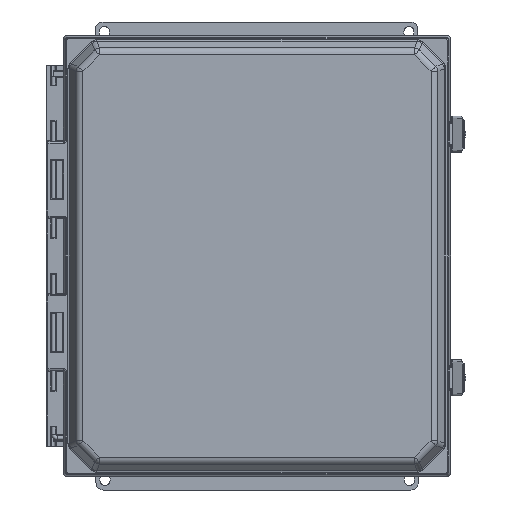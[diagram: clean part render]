
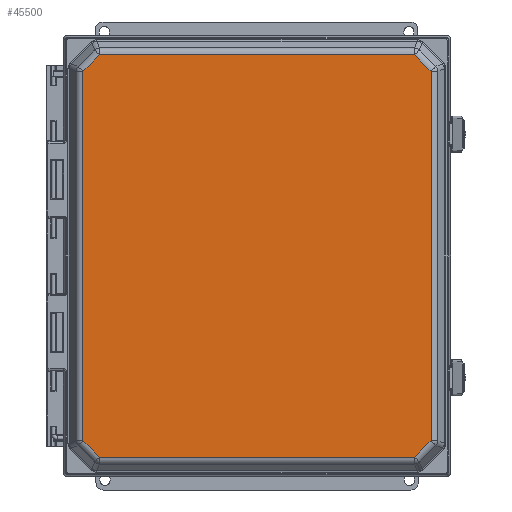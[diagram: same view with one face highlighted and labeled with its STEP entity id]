
A CAD part, front view. The second image highlights one B-rep face of the part: STEP entity #45500.
In plain terms, the highlighted planar face has unit normal (0, -1, 0) as drawn and (0, 0, 1) by its records, which use the part's own axes.
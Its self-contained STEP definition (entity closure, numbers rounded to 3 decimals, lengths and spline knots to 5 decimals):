
#3528=LINE('',#76546,#6952);
#3529=LINE('',#76549,#6953);
#3530=LINE('',#76551,#6954);
#3531=LINE('',#76553,#6955);
#3532=LINE('',#76555,#6956);
#3533=LINE('',#76557,#6957);
#3534=LINE('',#76559,#6958);
#3535=LINE('',#76561,#6959);
#6952=VECTOR('',#57222,1.);
#6953=VECTOR('',#57223,1.);
#6954=VECTOR('',#57224,1.);
#6955=VECTOR('',#57225,1.);
#6956=VECTOR('',#57226,1.);
#6957=VECTOR('',#57227,1.);
#6958=VECTOR('',#57228,1.);
#6959=VECTOR('',#57229,1.);
#10172=PLANE('',#49598);
#16596=ORIENTED_EDGE('',*,*,#27590,.T.);
#16597=ORIENTED_EDGE('',*,*,#27591,.T.);
#16598=ORIENTED_EDGE('',*,*,#27592,.T.);
#16599=ORIENTED_EDGE('',*,*,#27593,.T.);
#16600=ORIENTED_EDGE('',*,*,#27594,.T.);
#16601=ORIENTED_EDGE('',*,*,#27595,.T.);
#16602=ORIENTED_EDGE('',*,*,#27596,.T.);
#16603=ORIENTED_EDGE('',*,*,#27597,.T.);
#27590=EDGE_CURVE('',#38391,#38392,#3528,.T.);
#27591=EDGE_CURVE('',#38392,#38393,#3529,.T.);
#27592=EDGE_CURVE('',#38393,#38394,#3530,.F.);
#27593=EDGE_CURVE('',#38394,#38395,#3531,.T.);
#27594=EDGE_CURVE('',#38395,#38396,#3532,.F.);
#27595=EDGE_CURVE('',#38396,#38397,#3533,.T.);
#27596=EDGE_CURVE('',#38397,#38398,#3534,.T.);
#27597=EDGE_CURVE('',#38398,#38391,#3535,.T.);
#34767=EDGE_LOOP('',(#16596,#16597,#16598,#16599,#16600,#16601,#16602,#16603));
#38391=VERTEX_POINT('',#76547);
#38392=VERTEX_POINT('',#76548);
#38393=VERTEX_POINT('',#76550);
#38394=VERTEX_POINT('',#76552);
#38395=VERTEX_POINT('',#76554);
#38396=VERTEX_POINT('',#76556);
#38397=VERTEX_POINT('',#76558);
#38398=VERTEX_POINT('',#76560);
#42256=FACE_BOUND('',#34767,.T.);
#45500=ADVANCED_FACE('',(#42256),#10172,.T.);
#49598=AXIS2_PLACEMENT_3D('',#76545,#57220,#57221);
#57220=DIRECTION('',(0.,0.,1.));
#57221=DIRECTION('',(0.,-1.,0.));
#57222=DIRECTION('',(1.,0.,0.));
#57223=DIRECTION('',(0.707,0.707,0.));
#57224=DIRECTION('',(0.,-1.,0.));
#57225=DIRECTION('',(-0.707,0.707,0.));
#57226=DIRECTION('',(1.,0.,0.));
#57227=DIRECTION('',(-0.707,-0.707,0.));
#57228=DIRECTION('',(0.,-1.,0.));
#57229=DIRECTION('',(0.707,-0.707,0.));
#76545=CARTESIAN_POINT('',(0.,0.31548,0.0254));
#76546=CARTESIAN_POINT('',(0.,-0.16782,0.0254));
#76547=CARTESIAN_POINT('',(-0.13147,-0.16782,0.0254));
#76548=CARTESIAN_POINT('',(0.13147,-0.16782,0.0254));
#76549=CARTESIAN_POINT('',(0.13147,-0.16782,0.0254));
#76550=CARTESIAN_POINT('',(0.14521,-0.15407,0.0254));
#76551=CARTESIAN_POINT('',(0.14521,0.31548,0.0254));
#76552=CARTESIAN_POINT('',(0.14521,0.15407,0.0254));
#76553=CARTESIAN_POINT('',(0.14521,0.15407,0.0254));
#76554=CARTESIAN_POINT('',(0.13147,0.16782,0.0254));
#76555=CARTESIAN_POINT('',(0.,0.16782,0.0254));
#76556=CARTESIAN_POINT('',(-0.13147,0.16782,0.0254));
#76557=CARTESIAN_POINT('',(-0.13147,0.16782,0.0254));
#76558=CARTESIAN_POINT('',(-0.14521,0.15407,0.0254));
#76559=CARTESIAN_POINT('',(-0.14521,0.31548,0.0254));
#76560=CARTESIAN_POINT('',(-0.14521,-0.15407,0.0254));
#76561=CARTESIAN_POINT('',(-0.14521,-0.15407,0.0254));
